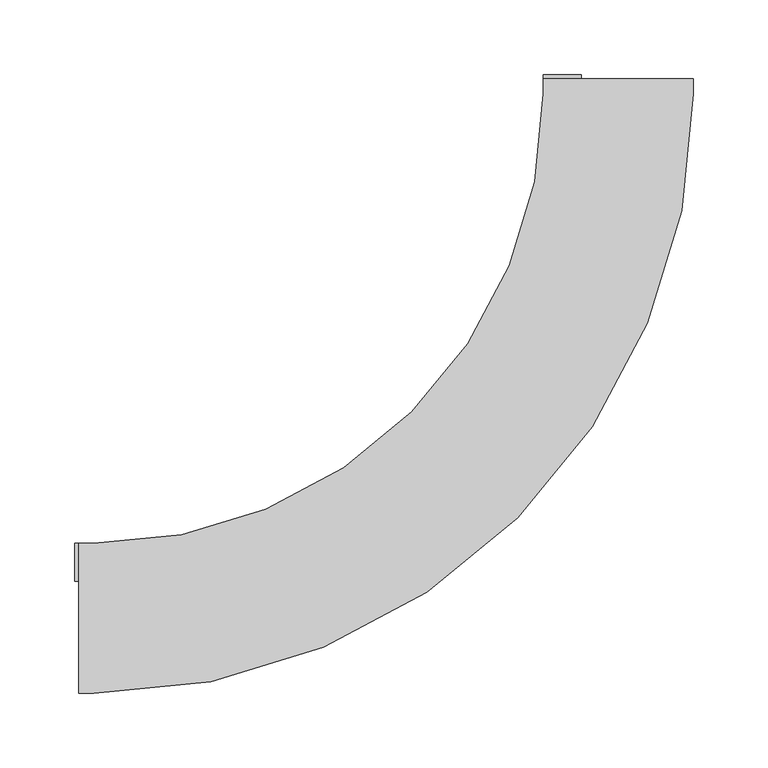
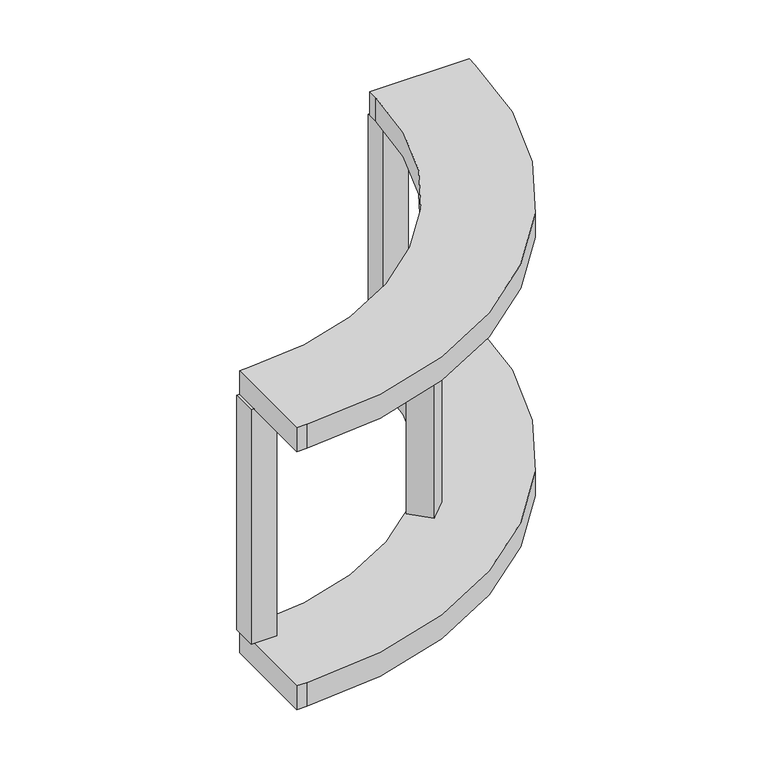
"""IFC4 building model written with IfcOpenShell, lengths in millimetres: cable carrier fitting geometry, ADSK_Поворот вертикальный наружный_Лестничный лоток : Радиус 300 мм."""

from ifc_helpers import new_model, si_unit, point, frame, frame_2d, origin, place, context, project, spatial, polyline, circle_curve, trimmed, segment, composite_curve, outline, extrude, source, transform, mapped, element, save


def cable_carrier_fitting_1ec722ce(model_context):
    return source(origin(), model_context, "Body", "SweptSolid", [
        extrude(outline(polyline([(-50.0, 362.7), (-24.6, 362.7), (-24.6, 337.3), (-50.0, 337.3), (-50.0, 362.7)])), frame((0.0, 0.0, -124.6), z_axis=(0.0, 0.0, 1.0), x_axis=(1.0, 0.0, 0.0)), (0.0, 0.0, 1.0), 249.2),
        extrude(outline(polyline([(-128.8877095, 146.8482218), (-110.9271973, 128.8877095), (-128.8877095, 110.9271973), (-146.8482218, 128.8877095), (-128.8877095, 146.8482218)])), frame((0.0, 0.0, -124.6), z_axis=(0.0, 0.0, 1.0), x_axis=(1.0, 0.0, 0.0)), (0.0, 0.0, 1.0), 249.2),
        extrude(outline(polyline([(-362.7, 24.6), (-362.7, 50.0), (-337.3, 50.0), (-337.3, 24.6), (-362.7, 24.6)])), frame((0.0, 0.0, -124.6), z_axis=(0.0, 0.0, 1.0), x_axis=(1.0, 0.0, 0.0)), (0.0, 0.0, 1.0), 249.2),
        extrude(outline(composite_curve([segment(polyline([(-360.0, -50.0), (-360.0, 50.0), (-350.0, 50.0)]), True, "CONTINUOUS"), segment(trimmed(circle_curve(frame_2d((-350.0, 350.0)), 300.0), [point((-350.0, 50.0))], [point((-50.0, 350.0))], True, "CARTESIAN"), True, "CONTINUOUS"), segment(polyline([(-50.0, 350.0), (-50.0, 360.0), (50.0, 360.0), (50.0, 350.0)]), True, "CONTINUOUS"), segment(trimmed(circle_curve(frame_2d((-350.0, 350.0)), 400.0), [point((50.0, 350.0))], [point((-350.0, -50.0))], False, "CARTESIAN"), True, "CONTINUOUS"), segment(polyline([(-350.0, -50.0), (-360.0, -50.0)]), True, "CONTINUOUS")], self_intersect=False)), frame((0.0, 0.0, 124.6), z_axis=(0.0, 0.0, 1.0), x_axis=(1.0, 0.0, 0.0)), (0.0, 0.0, 1.0), 25.4),
        extrude(outline(composite_curve([segment(polyline([(-360.0, -50.0), (-360.0, 50.0), (-350.0, 50.0)]), True, "CONTINUOUS"), segment(trimmed(circle_curve(frame_2d((-350.0, 350.0)), 300.0), [point((-350.0, 50.0))], [point((-50.0, 350.0))], True, "CARTESIAN"), True, "CONTINUOUS"), segment(polyline([(-50.0, 350.0), (-50.0, 360.0), (50.0, 360.0), (50.0, 350.0)]), True, "CONTINUOUS"), segment(trimmed(circle_curve(frame_2d((-350.0, 350.0)), 400.0), [point((50.0, 350.0))], [point((-350.0, -50.0))], False, "CARTESIAN"), True, "CONTINUOUS"), segment(polyline([(-350.0, -50.0), (-360.0, -50.0)]), True, "CONTINUOUS")], self_intersect=False)), frame((0.0, 0.0, -150.0), z_axis=(0.0, 0.0, 1.0), x_axis=(1.0, 0.0, 0.0)), (0.0, 0.0, 1.0), 25.4),
    ])


if __name__ == "__main__":
    model = new_model("IFC4")
    model_context = context("Model", 3, world=origin())
    ifc_project = project(units=[si_unit("LENGTHUNIT", "METRE", prefix="MILLI")], contexts=[model_context])
    site = spatial("IfcSite", under=ifc_project)
    building = spatial("IfcBuilding", under=site)
    placement = place(None, origin())
    cable_carrier_fitting_shape = cable_carrier_fitting_1ec722ce(model_context)
    element("IfcCableCarrierFitting", 1, ObjectType="ADSK_Поворот вертикальный наружный_Лестничный лоток : Радиус 300 мм", at=placement, inside=building, context=model_context, shape_type="MappedRepresentation", body=[
        mapped(cable_carrier_fitting_shape, transform((0.0, 0.0, 0.0), x_axis=(1.0, 0.0, 0.0), y_axis=(0.0, 1.0, 0.0), z_axis=(0.0, 0.0, 1.0))),
    ])
    save(model, "model.ifc")
